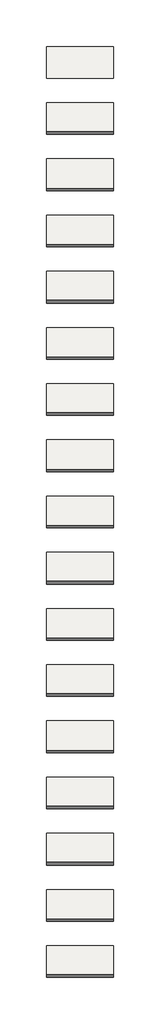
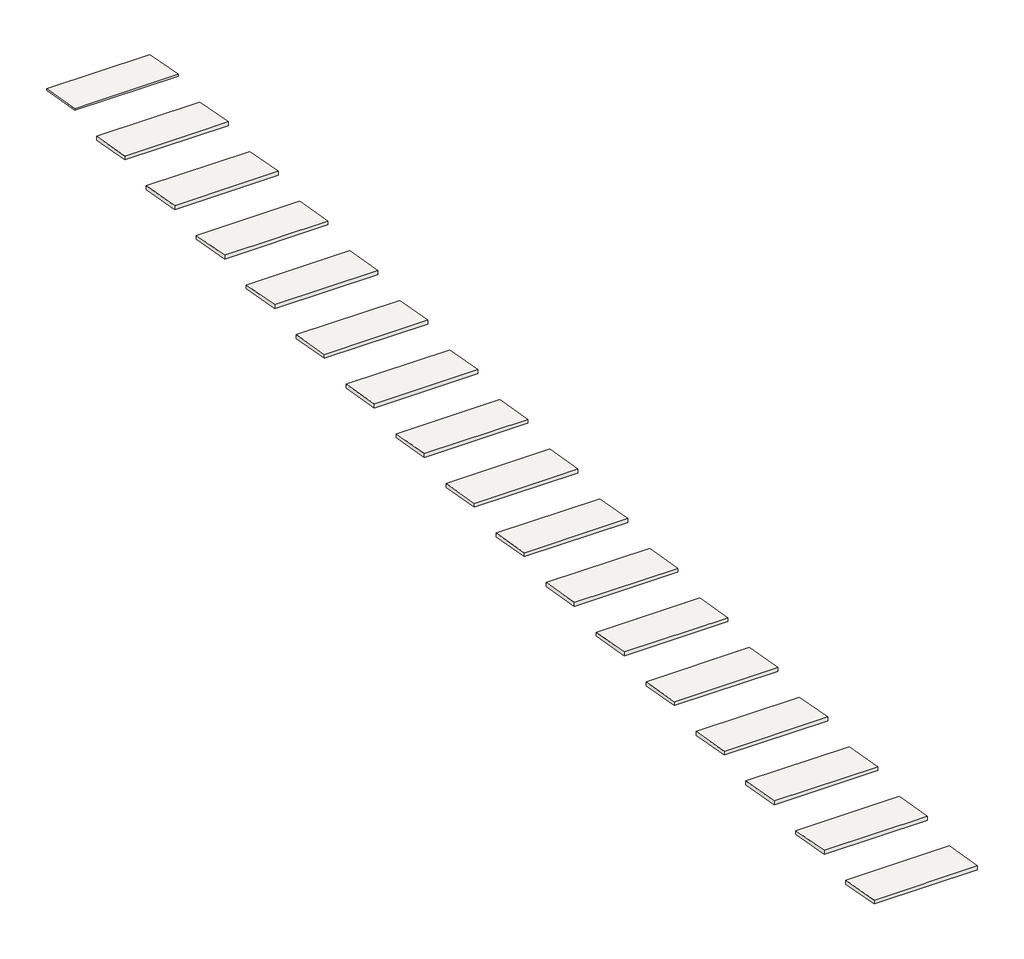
# One storey: 17 roofs.
"""IFC4 building model written with IfcOpenShell, lengths in millimetres."""

import ifcopenshell
import ifcopenshell.guid

model = None  # the IFC model being written
_history = None  # IfcOwnerHistory: only IFC2X3 demands one
_inside = {}  # id of a spatial element -> (the spatial element, [elements in it])
_under = {}  # id of a project, library or spatial element -> (it, [spatial elements below it])
_declared = {}  # id of a project -> (the project, [libraries it declares])
_typed = {}  # id of a type object -> (the type object, [elements of that type])
_made_of = {}  # id of a material, layer set ... -> (it, [elements and type objects made of it])


def new_model(schema):
    """Start an empty IFC model of exactly this schema.

    Asked for "IFC4X3", IfcOpenShell would pick the latest addendum, in which some entities
    have other attributes; the version numbers below select the first issue.
    IFC2X3 requires an IfcOwnerHistory on every rooted entity: one is made here for all.
    """
    global model, _history
    if schema == "IFC4X3":
        model = ifcopenshell.file(schema_version=(4, 3, 0, 0))
    else:
        model = ifcopenshell.file(schema=schema)
    _inside.clear()
    _under.clear()
    _declared.clear()
    _typed.clear()
    _made_of.clear()
    _history = None
    if model.schema == "IFC2X3":
        org = make("IfcOrganization", Name="unknown")
        user = make(
            "IfcPersonAndOrganization",
            ThePerson=make("IfcPerson", FamilyName="unknown"),
            TheOrganization=org,
        )
        app = make(
            "IfcApplication",
            ApplicationDeveloper=org,
            Version="unknown",
            ApplicationFullName="unknown",
            ApplicationIdentifier="unknown",
        )
        _history = make(
            "IfcOwnerHistory",
            OwningUser=user,
            OwningApplication=app,
            ChangeAction="ADDED",
            CreationDate=0,
        )
    return model


def make(cls, **values):
    """One entity of the class cls with the attributes given. An attribute that is None is left unset."""
    return model.create_entity(
        cls, **{name: value for name, value in values.items() if value is not None}
    )


def rooted(cls, **values):
    """An entity with a GlobalId (a new one), such as an element, a storey or a relation."""
    return make(cls, GlobalId=ifcopenshell.guid.new(), OwnerHistory=_history, **values)


def si_unit(unit_type, name, prefix=None):
    """IfcSIUnit, for example si_unit("LENGTHUNIT", "METRE", prefix="MILLI")."""
    return make("IfcSIUnit", UnitType=unit_type, Prefix=prefix, Name=name)


def assignment(units):
    """IfcUnitAssignment: the units of a project."""
    return None if units is None else make("IfcUnitAssignment", Units=units)


def point(xyz):
    """IfcCartesianPoint."""
    return None if xyz is None else make("IfcCartesianPoint", Coordinates=xyz)


def direction(xyz):
    """IfcDirection."""
    return None if xyz is None else make("IfcDirection", DirectionRatios=xyz)


def frame(location, z_axis=None, x_axis=None):
    """IfcAxis2Placement3D, a coordinate frame: its origin and axes. An axis left out is left unset."""
    return make(
        "IfcAxis2Placement3D",
        Location=point(location),
        Axis=direction(z_axis),
        RefDirection=direction(x_axis),
    )


def origin():
    """The frame at (0, 0, 0) with its axes left unset."""
    return frame((0.0, 0.0, 0.0))


def place(relative_to, where):
    """IfcLocalPlacement: puts the frame where relative to a parent placement (None: the world)."""
    return make(
        "IfcLocalPlacement", PlacementRelTo=relative_to, RelativePlacement=where
    )


def context(
    kind, dimensions, precision=None, world=None, true_north=None, identifier=None
):
    """IfcGeometricRepresentationContext, for example the 3D "Model" context."""
    return make(
        "IfcGeometricRepresentationContext",
        ContextIdentifier=identifier,
        ContextType=kind,
        CoordinateSpaceDimension=dimensions,
        Precision=precision,
        WorldCoordinateSystem=world,
        TrueNorth=true_north,
    )


def project(units=None, contexts=None):
    """IfcProject with its units and contexts."""
    return rooted(
        "IfcProject",
        Name="project",
        RepresentationContexts=contexts,
        UnitsInContext=assignment(units),
    )


def spatial(cls, under=None, at=None, **own):
    """A site, building, storey or space (cls), placed at a placement, below another one or the project."""
    s = rooted(cls, ObjectPlacement=at, **own)
    if under is not None:
        _under.setdefault(under.id(), (under, []))[1].append(s)
    return s


def polyline(points):
    """IfcPolyline through the points."""
    return make("IfcPolyline", Points=[point(p) for p in points])


def outline(outer, holes=None, kind="AREA"):
    """IfcArbitraryClosedProfileDef: a profile drawn as a closed curve; with holes, ...WithVoids."""
    if holes is None:
        return make("IfcArbitraryClosedProfileDef", ProfileType=kind, OuterCurve=outer)
    return make(
        "IfcArbitraryProfileDefWithVoids",
        ProfileType=kind,
        OuterCurve=outer,
        InnerCurves=holes,
    )


def extrude(swept, where, along, depth):
    """IfcExtrudedAreaSolid: the profile swept, set in the frame where, extruded along a direction by depth."""
    return make(
        "IfcExtrudedAreaSolid",
        SweptArea=swept,
        Position=where,
        ExtrudedDirection=direction(along),
        Depth=depth,
    )


def shape(context_of_items, identifier, shape_type, items):
    """IfcShapeRepresentation: the items that make up one representation, for example the "Body"."""
    return make(
        "IfcShapeRepresentation",
        ContextOfItems=context_of_items,
        RepresentationIdentifier=identifier,
        RepresentationType=shape_type,
        Items=items,
    )


def made_of(thing, what):
    """Note that an element or type object is made of a material, layer set ...; save() writes the relation."""
    if what is not None:
        _made_of.setdefault(what.id(), (what, []))[1].append(thing)
    return thing


def element(
    cls,
    number,
    at=None,
    inside=None,
    cuts=None,
    type_object=None,
    material=None,
    context=None,
    identifier="Body",
    shape_type=None,
    held_by="IfcProductDefinitionShape",
    body=None,
    shapes=None,
    **own,
):
    """One element of the class cls, such as IfcWall. Its Tag is "e" and its number.

    at: its placement. inside: the storey or other place that contains it. cuts: it is an
    opening in that element (IfcRelVoidsElement). A single representation is given by context,
    identifier, shape_type and body (its items); several are given by shapes. held_by: the class
    of the entity that holds the representations. save() writes the other relations.
    """
    e = rooted(cls, Tag="e%d" % number, ObjectPlacement=at, **own)
    if body is not None:
        shapes = [shape(context, identifier, shape_type, body)]
    if shapes is not None:
        e.Representation = make(held_by, Representations=shapes)
    if inside is not None:
        _inside.setdefault(inside.id(), (inside, []))[1].append(e)
    if cuts is not None:
        rooted(
            "IfcRelVoidsElement", RelatingBuildingElement=cuts, RelatedOpeningElement=e
        )
    if type_object is not None:
        _typed.setdefault(type_object.id(), (type_object, []))[1].append(e)
    return made_of(e, material)


def aggregate(whole, parts):
    """IfcRelAggregates: a whole, such as a stair, and the parts it consists of."""
    return rooted("IfcRelAggregates", RelatingObject=whole, RelatedObjects=parts)


def save(model, path):
    """Write the relations noted so far, then the file.

    IfcRelAggregates (storeys below a building ...), IfcRelContainedInSpatialStructure (elements
    in a storey), IfcRelDefinesByType, IfcRelAssociatesMaterial and IfcRelDeclares: one each for
    every whole, place, type object, material and project.
    """
    for whole, parts in _under.values():
        aggregate(whole, parts)
    for where, things in _inside.values():
        rooted(
            "IfcRelContainedInSpatialStructure",
            RelatedElements=things,
            RelatingStructure=where,
        )
    for kind, things in _typed.values():
        rooted("IfcRelDefinesByType", RelatedObjects=things, RelatingType=kind)
    for what, things in _made_of.values():
        rooted("IfcRelAssociatesMaterial", RelatedObjects=things, RelatingMaterial=what)
    for by, libraries in _declared.values():
        rooted("IfcRelDeclares", RelatingContext=by, RelatedDefinitions=libraries)
    model.write(path)


model = new_model("IFC4")

# Units and contexts
model_context = context("Model", 3, world=origin())
ifc_project = project(units=[si_unit("LENGTHUNIT", "METRE", prefix="MILLI")], contexts=[model_context])

# Site, building, storey
site = spatial("IfcSite", under=ifc_project)
building = spatial("IfcBuilding", under=site)
storey = spatial("IfcBuildingStorey", under=building, Name="Ceramic Slates Products", Elevation=4000.0)

# Roofs
placement = place(None, origin())
element("IfcRoof", 1, ObjectType="Wienerberger Sandtoft – Cassius clay tile - Material Holder", at=placement, inside=storey, context=model_context, shape_type="SweptSolid", body=[
    extrude(outline(polyline([(4016.7632074, 5026.4704634), (8916.7632074, 4162.4682579), (8916.7632074, 4000.0), (4016.7632074, 4864.0022055), (4016.7632074, 5026.4704634)])), frame((-6226.3794103, 0.0, 0.0), z_axis=(1.0, 0.0, 0.0), x_axis=(0.0, 1.0, 0.0)), (0.0, 0.0, 1.0), 10400.0),
])
element("IfcRoof", 2, ObjectType="Wienerberger Sandtoft – Actua clay tile - Material Holder 2", at=placement, inside=storey, context=model_context, shape_type="SweptSolid", body=[
    extrude(outline(polyline([(-13383.2367926, 5270.1728502), (-8483.2367926, 4406.1706448), (-8483.2367926, 4000.0), (-13383.2367926, 4864.0022055), (-13383.2367926, 5270.1728502)])), frame((-6226.3794103, 0.0, 0.0), z_axis=(1.0, 0.0, 0.0), x_axis=(0.0, 1.0, 0.0)), (0.0, 0.0, 1.0), 10400.0),
])
element("IfcRoof", 3, ObjectType="Wienerberger Sandtoft – Arcadia", at=placement, inside=storey, context=model_context, shape_type="SweptSolid", body=[
    extrude(outline(polyline([(-22083.2367926, 5270.1728502), (-17183.2367926, 4406.1706448), (-17183.2367926, 4000.0), (-22083.2367926, 4864.0022055), (-22083.2367926, 5270.1728502)])), frame((-6226.3794103, 0.0, 0.0), z_axis=(1.0, 0.0, 0.0), x_axis=(0.0, 1.0, 0.0)), (0.0, 0.0, 1.0), 10400.0),
])
element("IfcRoof", 4, ObjectType="Wienerberger Sandtoft – Bridgwater", at=placement, inside=storey, context=model_context, shape_type="SweptSolid", body=[
    extrude(outline(polyline([(-30783.2367926, 5270.1728502), (-25883.2367926, 4406.1706448), (-25883.2367926, 4000.0), (-30783.2367926, 4864.0022055), (-30783.2367926, 5270.1728502)])), frame((-6226.3794103, 0.0, 0.0), z_axis=(1.0, 0.0, 0.0), x_axis=(0.0, 1.0, 0.0)), (0.0, 0.0, 1.0), 10400.0),
])
element("IfcRoof", 5, ObjectType="Wienerberger Sandtoft – Britlock", at=placement, inside=storey, context=model_context, shape_type="SweptSolid", body=[
    extrude(outline(polyline([(-39483.2367926, 5270.1728502), (-34583.2367926, 4406.1706448), (-34583.2367926, 4000.0), (-39483.2367926, 4864.0022055), (-39483.2367926, 5270.1728502)])), frame((-6226.3794103, 0.0, 0.0), z_axis=(1.0, 0.0, 0.0), x_axis=(0.0, 1.0, 0.0)), (0.0, 0.0, 1.0), 10400.0),
])
element("IfcRoof", 6, ObjectType="Wienerberger Sandtoft – Calderdale", at=placement, inside=storey, context=model_context, shape_type="SweptSolid", body=[
    extrude(outline(polyline([(-48183.2367926, 5270.1728502), (-43283.2367926, 4406.1706448), (-43283.2367926, 4000.0), (-48183.2367926, 4864.0022055), (-48183.2367926, 5270.1728502)])), frame((-6226.3794103, 0.0, 0.0), z_axis=(1.0, 0.0, 0.0), x_axis=(0.0, 1.0, 0.0)), (0.0, 0.0, 1.0), 10400.0),
])
element("IfcRoof", 7, ObjectType="Wienerberger Sandtoft – Double Roman", at=placement, inside=storey, context=model_context, shape_type="SweptSolid", body=[
    extrude(outline(polyline([(-56883.2367926, 5270.1728502), (-51983.2367926, 4406.1706448), (-51983.2367926, 4000.0), (-56883.2367926, 4864.0022055), (-56883.2367926, 5270.1728502)])), frame((-6226.3794103, 0.0, 0.0), z_axis=(1.0, 0.0, 0.0), x_axis=(0.0, 1.0, 0.0)), (0.0, 0.0, 1.0), 10400.0),
])
element("IfcRoof", 8, ObjectType="Wienerberger Sandtoft – Goxhill Plain Tile", at=placement, inside=storey, context=model_context, shape_type="SweptSolid", body=[
    extrude(outline(polyline([(-65583.2367926, 5270.1728502), (-60683.2367926, 4406.1706448), (-60683.2367926, 4000.0), (-65583.2367926, 4864.0022055), (-65583.2367926, 5270.1728502)])), frame((-6226.3794103, 0.0, 0.0), z_axis=(1.0, 0.0, 0.0), x_axis=(0.0, 1.0, 0.0)), (0.0, 0.0, 1.0), 10400.0),
])
element("IfcRoof", 9, ObjectType="Wienerberger Sandtoft – Lindum", at=placement, inside=storey, context=model_context, shape_type="SweptSolid", body=[
    extrude(outline(polyline([(-74283.2367926, 5270.1728502), (-69383.2367926, 4406.1706448), (-69383.2367926, 4000.0), (-74283.2367926, 4864.0022055), (-74283.2367926, 5270.1728502)])), frame((-6226.3794103, 0.0, 0.0), z_axis=(1.0, 0.0, 0.0), x_axis=(0.0, 1.0, 0.0)), (0.0, 0.0, 1.0), 10400.0),
])
element("IfcRoof", 10, ObjectType="Wienerberger Sandtoft – Modula", at=placement, inside=storey, context=model_context, shape_type="SweptSolid", body=[
    extrude(outline(polyline([(-82983.2367926, 5270.1728502), (-78083.2367926, 4406.1706448), (-78083.2367926, 4000.0), (-82983.2367926, 4864.0022055), (-82983.2367926, 5270.1728502)])), frame((-6226.3794103, 0.0, 0.0), z_axis=(1.0, 0.0, 0.0), x_axis=(0.0, 1.0, 0.0)), (0.0, 0.0, 1.0), 10400.0),
])
element("IfcRoof", 11, ObjectType="Wienerberger Sandtoft – Neo Pantile", at=placement, inside=storey, context=model_context, shape_type="SweptSolid", body=[
    extrude(outline(polyline([(-91683.2367926, 5270.1728502), (-86783.2367926, 4406.1706448), (-86783.2367926, 4000.0), (-91683.2367926, 4864.0022055), (-91683.2367926, 5270.1728502)])), frame((-6226.3794103, 0.0, 0.0), z_axis=(1.0, 0.0, 0.0), x_axis=(0.0, 1.0, 0.0)), (0.0, 0.0, 1.0), 10400.0),
])
element("IfcRoof", 12, ObjectType="Wienerberger Sandtoft – Okewood", at=placement, inside=storey, context=model_context, shape_type="SweptSolid", body=[
    extrude(outline(polyline([(-100383.2367926, 5270.1728502), (-95483.2367926, 4406.1706448), (-95483.2367926, 4000.0), (-100383.2367926, 4864.0022055), (-100383.2367926, 5270.1728502)])), frame((-6226.3794103, 0.0, 0.0), z_axis=(1.0, 0.0, 0.0), x_axis=(0.0, 1.0, 0.0)), (0.0, 0.0, 1.0), 10400.0),
])
element("IfcRoof", 13, ObjectType="Wienerberger Sandtoft – Olympus", at=placement, inside=storey, context=model_context, shape_type="SweptSolid", body=[
    extrude(outline(polyline([(-109083.2367926, 5270.1728502), (-104183.2367926, 4406.1706448), (-104183.2367926, 4000.0), (-109083.2367926, 4864.0022055), (-109083.2367926, 5270.1728502)])), frame((-6226.3794103, 0.0, 0.0), z_axis=(1.0, 0.0, 0.0), x_axis=(0.0, 1.0, 0.0)), (0.0, 0.0, 1.0), 10400.0),
])
element("IfcRoof", 14, ObjectType="Wienerberger Sandtoft – Rivius", at=placement, inside=storey, context=model_context, shape_type="SweptSolid", body=[
    extrude(outline(polyline([(-117783.2367926, 5270.1728502), (-112883.2367926, 4406.1706448), (-112883.2367926, 4000.0), (-117783.2367926, 4864.0022055), (-117783.2367926, 5270.1728502)])), frame((-6226.3794103, 0.0, 0.0), z_axis=(1.0, 0.0, 0.0), x_axis=(0.0, 1.0, 0.0)), (0.0, 0.0, 1.0), 10400.0),
])
element("IfcRoof", 15, ObjectType="Wienerberger Sandtoft – Standard Pattern", at=placement, inside=storey, context=model_context, shape_type="SweptSolid", body=[
    extrude(outline(polyline([(-126483.2367926, 5270.1728502), (-121583.2367926, 4406.1706448), (-121583.2367926, 4000.0), (-126483.2367926, 4864.0022055), (-126483.2367926, 5270.1728502)])), frame((-6226.3794103, 0.0, 0.0), z_axis=(1.0, 0.0, 0.0), x_axis=(0.0, 1.0, 0.0)), (0.0, 0.0, 1.0), 10400.0),
])
element("IfcRoof", 16, ObjectType="Wienerberger Sandtoft – Vauban", at=placement, inside=storey, context=model_context, shape_type="SweptSolid", body=[
    extrude(outline(polyline([(-135183.2367926, 5270.1728502), (-130283.2367926, 4406.1706448), (-130283.2367926, 4000.0), (-135183.2367926, 4864.0022055), (-135183.2367926, 5270.1728502)])), frame((-6226.3794103, 0.0, 0.0), z_axis=(1.0, 0.0, 0.0), x_axis=(0.0, 1.0, 0.0)), (0.0, 0.0, 1.0), 10400.0),
])
element("IfcRoof", 17, ObjectType="Wienerberger Sandtoft – 2020", at=placement, inside=storey, context=model_context, shape_type="SweptSolid", body=[
    extrude(outline(polyline([(-4683.2367926, 5270.1728502), (216.7632074, 4406.1706448), (216.7632074, 4000.0), (-4683.2367926, 4864.0022055), (-4683.2367926, 5270.1728502)])), frame((-6226.3794103, 0.0, 0.0), z_axis=(1.0, 0.0, 0.0), x_axis=(0.0, 1.0, 0.0)), (0.0, 0.0, 1.0), 10400.0),
])

save(model, "model.ifc")
